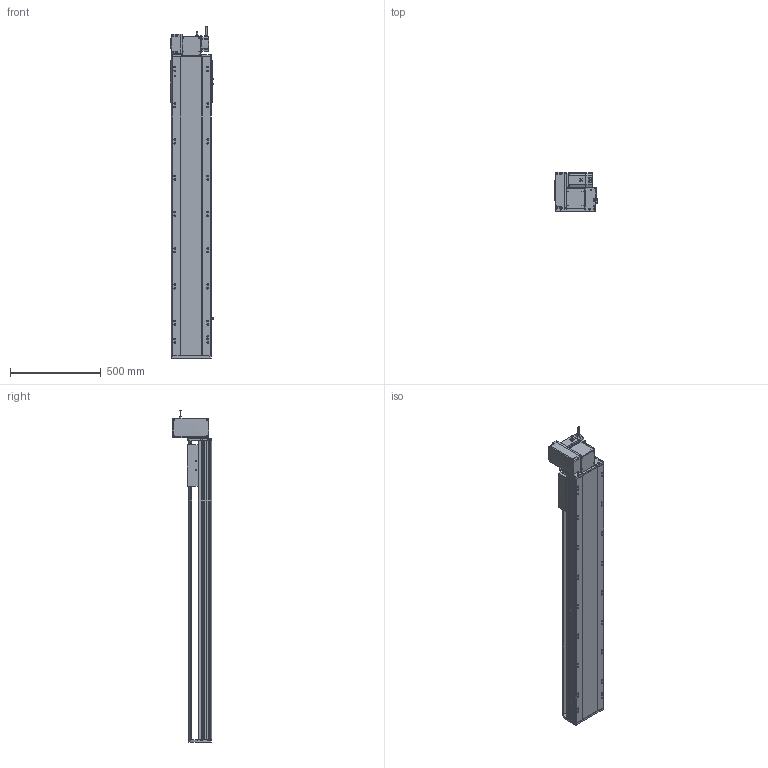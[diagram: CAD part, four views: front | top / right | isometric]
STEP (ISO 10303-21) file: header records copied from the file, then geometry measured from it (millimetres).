
FILE_DESCRIPTION (( 'STEP AP214' ), '1' );
FILE_NAME ('RTB22S-XX-1300-LW-M75-C4.STEP', '2025-12-12T05:56:49', ( '' ), ( '' ), 'SwSTEP 2.0', 'SolidWorks 2018', '' );
FILE_SCHEMA (( 'AUTOMOTIVE_DESIGN' ));
Length unit declared in the file: millimetre
Products named in the file (14): RTB22S-GY-007奻裔^RTB22S-XX-XX-LW-M75-C4; RTB22S-GY-001耜裔^RTB22S-XX-XX-LW-M75-C4; RTB22S-GY-008-M75--萇儂啣^RTB22S-LW-々湍釱蚾饜_RTB22S-XX-XX-LW-M75-C4; RTB22S-GY-017P^RTB22S-LW-々湍釱蚾饜_RTB22S-XX-XX-LW-M75-C4; RTB22S-GY-014--々湍釱^RTB22S-LW-々湍釱蚾饜_RTB22S-XX-XX-LW-M75-C4; RTB22S-L-011菁釱^RTB22S-XX-XX-LW-M75-C4; RTB22S-XX-1300-LW-M75-C4; 750W萇儂^RTB22S-XX-XX-LW-M75-C4; RTB22S-LW-々湍釱蚾饜^RTB22S-XX-XX-LW-M75-C4; RTB22S-GY-005P^RTB22S-LW-々湍釱蚾饜_RTB22S-XX-XX-LW-M75-C4; RTB22S-GY-018P^RTB22S-LW-々湍釱蚾饜_RTB22S-XX-XX-LW-M75-C4; OMRON EE-SX672 传感器^RTB22S-XX-XX-LW-M75-C4; RTH22-GY-013外置感应片^RTB22S-XX-XX-LW-M75-C4; RTB22S-L-004賑釱^RTB22S-XX-XX-LW-M75-C4
Assembly tree (16 placements, depth 3):
  RTB22S-XX-1300-LW-M75-C4
    RTB22S-L-011菁釱^RTB22S-XX-XX-LW-M75-C4
    RTB22S-GY-001耜裔^RTB22S-XX-XX-LW-M75-C4
    750W萇儂^RTB22S-XX-XX-LW-M75-C4
    RTB22S-GY-007奻裔^RTB22S-XX-XX-LW-M75-C4
    RTB22S-L-004賑釱^RTB22S-XX-XX-LW-M75-C4
    RTH22-GY-013外置感应片^RTB22S-XX-XX-LW-M75-C4
    OMRON EE-SX672 传感器^RTB22S-XX-XX-LW-M75-C4  x3
    RTB22S-LW-々湍釱蚾饜^RTB22S-XX-XX-LW-M75-C4
      RTB22S-GY-014--々湍釱^RTB22S-LW-々湍釱蚾饜_RTB22S-XX-XX-LW-M75-C4
      RTB22S-GY-017P^RTB22S-LW-々湍釱蚾饜_RTB22S-XX-XX-LW-M75-C4  x2
      RTB22S-GY-005P^RTB22S-LW-々湍釱蚾饜_RTB22S-XX-XX-LW-M75-C4
      RTB22S-GY-008-M75--萇儂啣^RTB22S-LW-々湍釱蚾饜_RTB22S-XX-XX-LW-M75-C4
      RTB22S-GY-018P^RTB22S-LW-々湍釱蚾饜_RTB22S-XX-XX-LW-M75-C4
Bounding box: 238.5 x 215.5 x 1832.2 mm (x, y, z)
Volume: 24782881.2 mm3; surface area: 2566222.1 mm2
Topology: 15 solids, 15 shells, 2001 faces, 5436 edges, 3482 vertices
Faces by surface type: plane 917, cylinder 634, bspline 296, cone 142, sphere 8, torus 4
Entity records: 53426 total; most frequent: CARTESIAN_POINT 15320, ORIENTED_EDGE 7652, DIRECTION 7380, EDGE_CURVE 3826, AXIS2_PLACEMENT_3D 2610, VERTEX_POINT 2486, LINE 2160, VECTOR 2160
